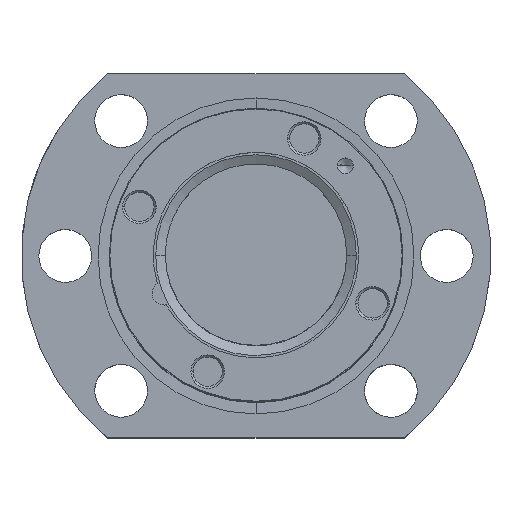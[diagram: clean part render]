
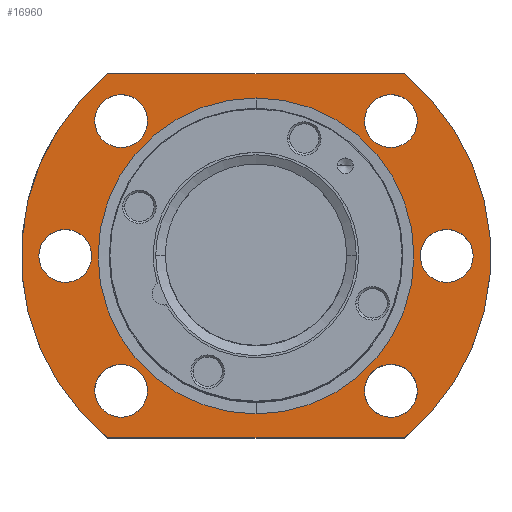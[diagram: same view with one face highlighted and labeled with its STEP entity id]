
A CAD part, top view. The second image highlights one B-rep face of the part: STEP entity #16960.
In plain terms, the highlighted planar face has unit normal (0, 0, 1).
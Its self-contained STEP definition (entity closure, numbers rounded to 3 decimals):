
#12510=CARTESIAN_POINT('',(18.481,-22.981,163.6));
#12520=VERTEX_POINT('',#12510);
#12550=CARTESIAN_POINT('',(22.981,-22.981,163.6));
#12560=DIRECTION('',(0.,0.,-1.));
#12570=DIRECTION('',(-1.,0.,0.));
#12580=AXIS2_PLACEMENT_3D('',#12550,#12560,#12570);
#12590=CIRCLE('',#12580,4.5);
#12600=CARTESIAN_POINT('',(27.481,-22.981,163.6));
#12610=VERTEX_POINT('',#12600);
#12620=EDGE_CURVE('',#12520,#12610,#12590,.T.);
#13640=CARTESIAN_POINT('',(0.,-26.913,163.6)
);
#13650=VERTEX_POINT('',#13640);
#13680=CARTESIAN_POINT('',(0.,0.,
163.6));
#13690=DIRECTION('',(0.,0.,1.));
#13700=DIRECTION('',(0.,1.,0.));
#13710=AXIS2_PLACEMENT_3D('',#13680,#13690,#13700);
#13720=CIRCLE('',#13710,26.913);
#13730=CARTESIAN_POINT('',(0.,26.913,163.6))
;
#13740=VERTEX_POINT('',#13730);
#13750=EDGE_CURVE('',#13740,#13650,#13720,.T.);
#14110=CARTESIAN_POINT('',(22.981,22.981,163.6));
#14120=DIRECTION('',(0.,0.,-1.));
#14130=DIRECTION('',(-1.,0.,0.));
#14140=AXIS2_PLACEMENT_3D('',#14110,#14120,#14130);
#14150=CIRCLE('',#14140,4.5);
#14160=CARTESIAN_POINT('',(18.909,24.897,163.6));
#14170=VERTEX_POINT('',#14160);
#14180=CARTESIAN_POINT('',(27.481,22.981,163.6));
#14190=VERTEX_POINT('',#14180);
#14200=EDGE_CURVE('',#14170,#14190,#14150,.T.);
#14340=CARTESIAN_POINT('',(18.481,22.981,163.6));
#14350=VERTEX_POINT('',#14340);
#14380=EDGE_CURVE('',#14350,#14170,#14150,.T.);
#14940=CARTESIAN_POINT('',(28.,0.,163.6));
#14950=VERTEX_POINT('',#14940);
#14980=CARTESIAN_POINT('',(32.5,0.,163.6));
#14990=DIRECTION('',(0.,0.,-1.));
#15000=DIRECTION('',(-1.,0.,0.));
#15010=AXIS2_PLACEMENT_3D('',#14980,#14990,#15000);
#15020=CIRCLE('',#15010,4.5);
#15030=CARTESIAN_POINT('',(30.976,4.234,163.6));
#15040=VERTEX_POINT('',#15030);
#15050=EDGE_CURVE('',#14950,#15040,#15020,.T.);
#15070=CARTESIAN_POINT('',(37.,0.,163.6));
#15080=VERTEX_POINT('',#15070);
#15090=EDGE_CURVE('',#15040,#15080,#15020,.T.);
#15390=CARTESIAN_POINT('',(-25.278,31.,163.6));
#15400=VERTEX_POINT('',#15390);
#15430=CARTESIAN_POINT('',(0.,0.,
163.6));
#15440=DIRECTION('',(0.,0.,-1.));
#15450=DIRECTION('',(-1.,0.,0.));
#15460=AXIS2_PLACEMENT_3D('',#15430,#15440,#15450);
#15470=CIRCLE('',#15460,40.);
#15480=CARTESIAN_POINT('',(-25.278,-31.,163.6));
#15490=VERTEX_POINT('',#15480);
#15500=EDGE_CURVE('',#15490,#15400,#15470,.T.);
#15780=CARTESIAN_POINT('',(75.954,-37.2,163.6));
#15790=DIRECTION('',(0.,0.,-1.));
#15800=DIRECTION('',(-1.,0.,-0.));
#15810=AXIS2_PLACEMENT_3D('',#15780,#15790,#15800);
#15820=PLANE('',#15810);
#15830=CARTESIAN_POINT('',(0.,-31.,163.6));
#15840=DIRECTION('',(1.,-0.,0.));
#15850=VECTOR('',#15840,1.);
#15860=LINE('',#15830,#15850);
#15870=CARTESIAN_POINT('',(25.278,-31.,163.6));
#15880=VERTEX_POINT('',#15870);
#15890=EDGE_CURVE('',#15490,#15880,#15860,.T.);
#15900=ORIENTED_EDGE('',*,*,#15890,.T.);
#15910=ORIENTED_EDGE('',*,*,#15500,.F.);
#15920=CARTESIAN_POINT('',(0.,31.,163.6));
#15930=DIRECTION('',(1.,0.,-0.));
#15940=VECTOR('',#15930,1.);
#15950=LINE('',#15920,#15940);
#15960=CARTESIAN_POINT('',(25.278,31.,163.6));
#15970=VERTEX_POINT('',#15960);
#15980=EDGE_CURVE('',#15400,#15970,#15950,.T.);
#15990=ORIENTED_EDGE('',*,*,#15980,.F.);
#16000=CARTESIAN_POINT('',(0.,0.,
163.6));
#16010=DIRECTION('',(0.,0.,-1.));
#16020=DIRECTION('',(-1.,0.,0.));
#16030=AXIS2_PLACEMENT_3D('',#16000,#16010,#16020);
#16040=CIRCLE('',#16030,40.);
#16050=EDGE_CURVE('',#15970,#15880,#16040,.T.);
#16060=ORIENTED_EDGE('',*,*,#16050,.F.);
#16070=EDGE_LOOP('',(#16060,#15990,#15910,#15900));
#16080=FACE_OUTER_BOUND('',#16070,.T.);
#16090=CARTESIAN_POINT('',(-22.981,22.981,163.6));
#16100=DIRECTION('',(0.,0.,-1.));
#16110=DIRECTION('',(-1.,0.,0.));
#16120=AXIS2_PLACEMENT_3D('',#16090,#16100,#16110);
#16130=CIRCLE('',#16120,4.5);
#16140=CARTESIAN_POINT('',(-18.481,22.981,163.6));
#16150=VERTEX_POINT('',#16140);
#16160=CARTESIAN_POINT('',(-27.481,22.981,163.6));
#16170=VERTEX_POINT('',#16160);
#16180=EDGE_CURVE('',#16150,#16170,#16130,.T.);
#16190=ORIENTED_EDGE('',*,*,#16180,.T.);
#16200=CARTESIAN_POINT('',(-27.053,24.897,163.6));
#16210=VERTEX_POINT('',#16200);
#16220=EDGE_CURVE('',#16210,#16150,#16130,.T.);
#16230=ORIENTED_EDGE('',*,*,#16220,.T.);
#16240=EDGE_CURVE('',#16170,#16210,#16130,.T.);
#16250=ORIENTED_EDGE('',*,*,#16240,.T.);
#16260=EDGE_LOOP('',(#16250,#16230,#16190));
#16270=FACE_BOUND('',#16260,.T.);
#16280=CARTESIAN_POINT('',(-32.5,0.,163.6));
#16290=DIRECTION('',(0.,0.,-1.));
#16300=DIRECTION('',(-1.,0.,0.));
#16310=AXIS2_PLACEMENT_3D('',#16280,#16290,#16300);
#16320=CIRCLE('',#16310,4.5);
#16330=CARTESIAN_POINT('',(-37.,0.,163.6));
#16340=VERTEX_POINT('',#16330);
#16350=CARTESIAN_POINT('',(-28.,0.,163.6));
#16360=VERTEX_POINT('',#16350);
#16370=EDGE_CURVE('',#16340,#16360,#16320,.T.);
#16380=ORIENTED_EDGE('',*,*,#16370,.T.);
#16390=CARTESIAN_POINT('',(-30.976,-4.234,163.6));
#16400=VERTEX_POINT('',#16390);
#16410=EDGE_CURVE('',#16400,#16340,#16320,.T.);
#16420=ORIENTED_EDGE('',*,*,#16410,.T.);
#16430=EDGE_CURVE('',#16360,#16400,#16320,.T.);
#16440=ORIENTED_EDGE('',*,*,#16430,.T.);
#16450=EDGE_LOOP('',(#16440,#16420,#16380));
#16460=FACE_BOUND('',#16450,.T.);
#16470=CARTESIAN_POINT('',(-22.981,-22.981,163.6));
#16480=DIRECTION('',(0.,0.,-1.));
#16490=DIRECTION('',(-1.,0.,0.));
#16500=AXIS2_PLACEMENT_3D('',#16470,#16480,#16490);
#16510=CIRCLE('',#16500,4.5);
#16520=CARTESIAN_POINT('',(-18.481,-22.981,163.6));
#16530=VERTEX_POINT('',#16520);
#16540=CARTESIAN_POINT('',(-27.481,-22.981,163.6));
#16550=VERTEX_POINT('',#16540);
#16560=EDGE_CURVE('',#16530,#16550,#16510,.T.);
#16570=ORIENTED_EDGE('',*,*,#16560,.T.);
#16580=CARTESIAN_POINT('',(-27.053,-21.065,163.6));
#16590=VERTEX_POINT('',#16580);
#16600=EDGE_CURVE('',#16590,#16530,#16510,.T.);
#16610=ORIENTED_EDGE('',*,*,#16600,.T.);
#16620=EDGE_CURVE('',#16550,#16590,#16510,.T.);
#16630=ORIENTED_EDGE('',*,*,#16620,.T.);
#16640=EDGE_LOOP('',(#16630,#16610,#16570));
#16650=FACE_BOUND('',#16640,.T.);
#16660=ORIENTED_EDGE('',*,*,#12620,.T.);
#16670=CARTESIAN_POINT('',(27.053,-24.897,163.6));
#16680=VERTEX_POINT('',#16670);
#16690=EDGE_CURVE('',#16680,#12520,#12590,.T.);
#16700=ORIENTED_EDGE('',*,*,#16690,.T.);
#16710=EDGE_CURVE('',#12610,#16680,#12590,.T.);
#16720=ORIENTED_EDGE('',*,*,#16710,.T.);
#16730=EDGE_LOOP('',(#16720,#16700,#16660));
#16740=FACE_BOUND('',#16730,.T.);
#16750=EDGE_CURVE('',#15080,#14950,#15020,.T.);
#16760=ORIENTED_EDGE('',*,*,#16750,.T.);
#16770=ORIENTED_EDGE('',*,*,#15090,.T.);
#16780=ORIENTED_EDGE('',*,*,#15050,.T.);
#16790=EDGE_LOOP('',(#16780,#16770,#16760));
#16800=FACE_BOUND('',#16790,.T.);
#16810=EDGE_CURVE('',#14190,#14350,#14150,.T.);
#16820=ORIENTED_EDGE('',*,*,#16810,.T.);
#16830=ORIENTED_EDGE('',*,*,#14200,.T.);
#16840=ORIENTED_EDGE('',*,*,#14380,.T.);
#16850=EDGE_LOOP('',(#16840,#16830,#16820));
#16860=FACE_BOUND('',#16850,.T.);
#16870=CARTESIAN_POINT('',(26.913,0.,163.6)
);
#16880=VERTEX_POINT('',#16870);
#16890=EDGE_CURVE('',#16880,#13740,#13720,.T.);
#16900=ORIENTED_EDGE('',*,*,#16890,.F.);
#16910=ORIENTED_EDGE('',*,*,#13750,.F.);
#16920=EDGE_CURVE('',#13650,#16880,#13720,.T.);
#16930=ORIENTED_EDGE('',*,*,#16920,.F.);
#16940=EDGE_LOOP('',(#16930,#16910,#16900));
#16950=FACE_BOUND('',#16940,.T.);
#16960=ADVANCED_FACE('',(#16080,#16270,#16460,#16650,#16740,#16800,
#16860,#16950),#15820,.F.);
